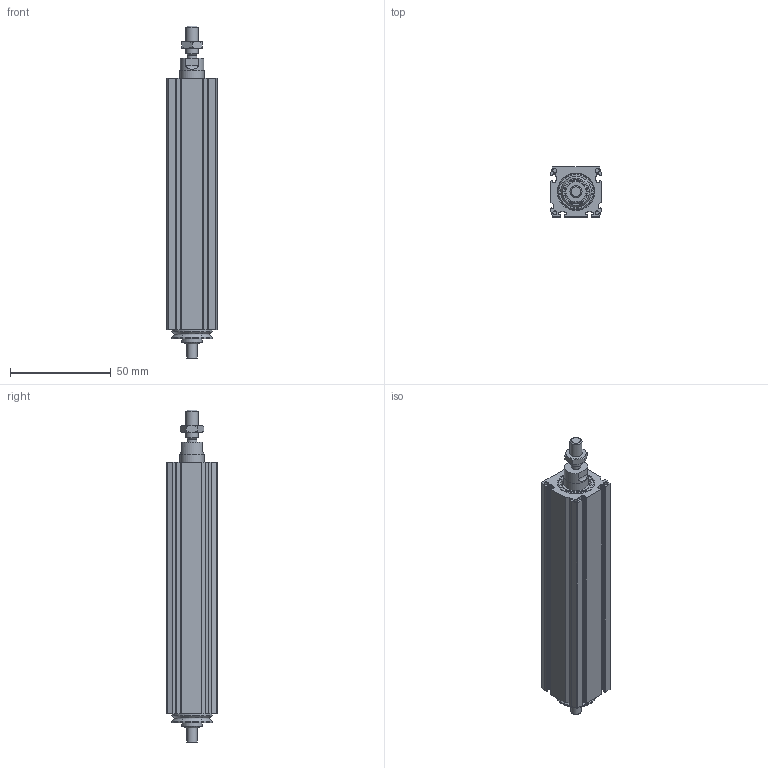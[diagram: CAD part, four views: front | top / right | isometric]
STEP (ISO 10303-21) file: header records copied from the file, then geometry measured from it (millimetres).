
FILE_DESCRIPTION(/* description */ ('STEP AP214'),/* implementation_level */ '2;1');
FILE_NAME(/* name */ 'MCE 25 0606 75 0(0)',/* time_stamp */ '2023-10-05T13:30:23+02:00',/* author */ ('License CC BY-ND 4.0'),/* organization */ ('CADENAS'),/* preprocessor_version */ 'ST-DEVELOPER v19.3',/* originating_system */ 'PARTsolutions',/* authorisation */ ' ');
FILE_SCHEMA (('AUTOMOTIVE_DESIGN {1 0 10303 214 3 1 1}'));
Length unit declared in the file: millimetre
Products named in the file (4): MCE 25 0606 75  0(0); 25_nut; 25(750)_rod; 25(75)_msc
Assembly tree (3 placements, depth 2):
  MCE 25 0606 75  0(0)
    25_nut
    25(750)_rod
    25(75)_msc
Bounding box: 25 x 25 x 165 mm (x, y, z)
Volume: 62062.2 mm3; surface area: 33013 mm2
Topology: 3 solids, 3 shells, 245 faces, 623 edges, 406 vertices
Faces by surface type: plane 110, cylinder 108, cone 23, torus 4
Full cylindrical faces by diameter (mm): 2.013 x8, 4.8 x1, 4.917 x1, 5 x1, 6 x1, 8 x1, 10 x1, 11.8 x1, 12 x2, 14.7 x1, 15.4 x1, 18 x1, 19 x2, 20 x2
Entity records: 7373 total; most frequent: CARTESIAN_POINT 1327, DIRECTION 1300, ORIENTED_EDGE 1164, EDGE_CURVE 582, AXIS2_PLACEMENT_3D 495, VERTEX_POINT 404, LINE 310, VECTOR 310
